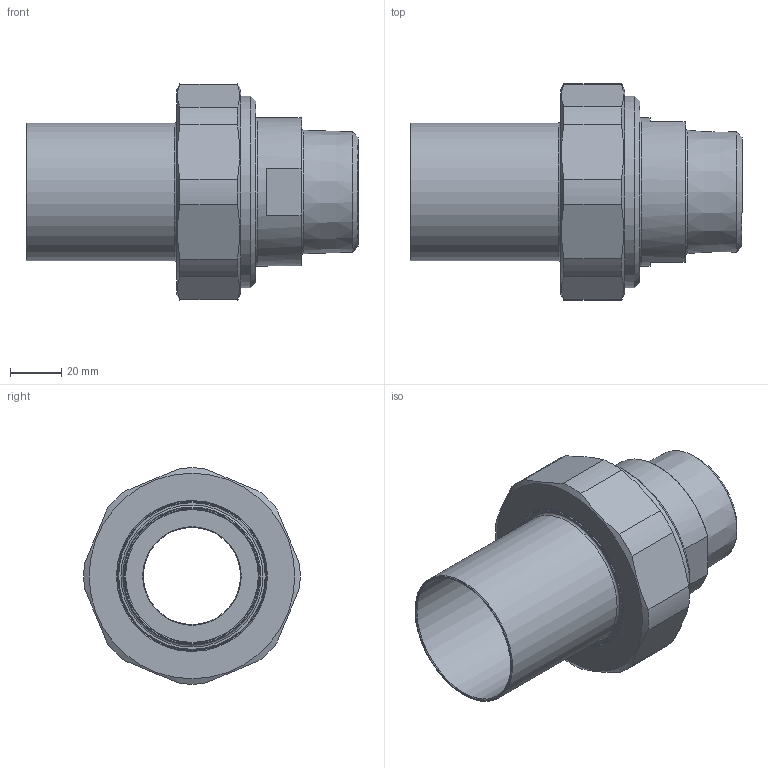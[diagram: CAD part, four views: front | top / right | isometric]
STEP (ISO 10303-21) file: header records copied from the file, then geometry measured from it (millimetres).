
FILE_DESCRIPTION(/* description */ (''),/* implementation_level */ '2;1');
FILE_NAME(/* name */ 'C:\Users\cad\Desktop\Zeichnungen neu von Ralph\Ganze Kupplungen\3D_Kupplung-R666-PE-UG\3D_R666-PE-UG-54-DN65-DN40_171130971.stp',/* time_stamp */ '2021-07-16T13:18:26+02:00',/* author */ ('cad'),/* organization */ (''),/* preprocessor_version */ 'ST-DEVELOPER v18.1',/* originating_system */ 'Autodesk Inventor 2022',/* authorisation */ '');
FILE_SCHEMA (('AUTOMOTIVE_DESIGN { 1 0 10303 214 3 1 1 }'));
Length unit declared in the file: millimetre
Products named in the file (4): 3D_R666-PE-UG-54-DN65-DN40_171130971; 3D_R666-M-DN65_17113970; 3D_R666-UG-DN40-DN65_17113660; 3D_R666-PE-54-DN65_17113487
Assembly tree (3 placements, depth 2):
  3D_R666-PE-UG-54-DN65-DN40_171130971
    3D_R666-M-DN65_17113970
    3D_R666-UG-DN40-DN65_17113660
    3D_R666-PE-54-DN65_17113487
Bounding box: 130 x 84.67 x 84.64 mm (x, y, z)
Volume: 166117.5 mm3; surface area: 66999.3 mm2
Topology: 3 solids, 3 shells, 64 faces, 157 edges, 104 vertices
Faces by surface type: plane 23, cone 19, cylinder 17, torus 5
Full cylindrical faces by diameter (mm): 38 x1, 52 x1, 54 x1, 58 x2, 58.5 x1, 70 x1, 72.226 x1, 75.1 x1
Entity records: 2067 total; most frequent: CARTESIAN_POINT 372, DIRECTION 366, ORIENTED_EDGE 314, AXIS2_PLACEMENT_3D 158, EDGE_CURVE 157, VERTEX_POINT 104, CIRCLE 87, EDGE_LOOP 75
